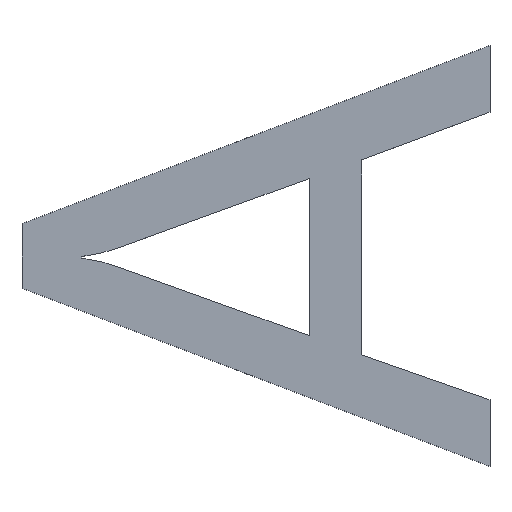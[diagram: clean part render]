
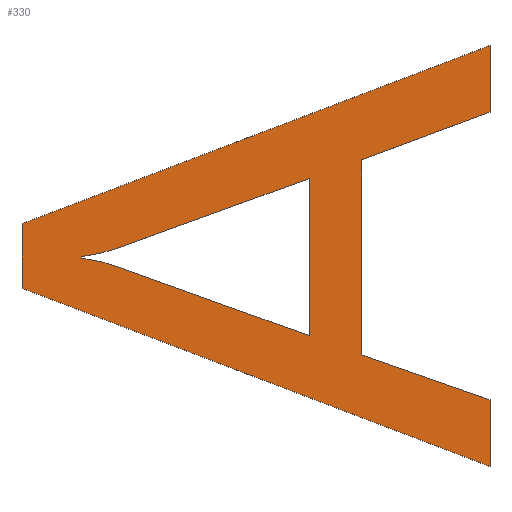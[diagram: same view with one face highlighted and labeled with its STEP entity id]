
A CAD part, top view. The second image highlights one B-rep face of the part: STEP entity #330.
In plain terms, the highlighted planar face has unit normal (0, 0, 1).
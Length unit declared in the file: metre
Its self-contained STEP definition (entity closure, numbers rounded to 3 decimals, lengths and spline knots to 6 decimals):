
#13=B_SPLINE_CURVE_WITH_KNOTS('',3,(#547,#548,#549,#550),.UNSPECIFIED.,
 .F.,.F.,(4,4),(3.,4.),.UNSPECIFIED.);
#15=B_SPLINE_CURVE_WITH_KNOTS('',3,(#572,#573,#574,#575),.UNSPECIFIED.,
 .F.,.F.,(4,4),(1.,2.),.UNSPECIFIED.);
#88=ORIENTED_EDGE('',*,*,#119,.F.);
#89=ORIENTED_EDGE('',*,*,#104,.F.);
#90=ORIENTED_EDGE('',*,*,#108,.F.);
#91=ORIENTED_EDGE('',*,*,#111,.F.);
#92=ORIENTED_EDGE('',*,*,#114,.F.);
#93=ORIENTED_EDGE('',*,*,#117,.F.);
#94=ORIENTED_EDGE('',*,*,#143,.T.);
#95=ORIENTED_EDGE('',*,*,#140,.T.);
#96=ORIENTED_EDGE('',*,*,#137,.T.);
#97=ORIENTED_EDGE('',*,*,#134,.T.);
#98=ORIENTED_EDGE('',*,*,#131,.T.);
#99=ORIENTED_EDGE('',*,*,#128,.T.);
#100=ORIENTED_EDGE('',*,*,#125,.T.);
#101=ORIENTED_EDGE('',*,*,#122,.T.);
#104=EDGE_CURVE('',#146,#147,#174,.T.);
#108=EDGE_CURVE('',#149,#146,#13,.T.);
#111=EDGE_CURVE('',#151,#149,#179,.T.);
#114=EDGE_CURVE('',#153,#151,#15,.T.);
#117=EDGE_CURVE('',#155,#153,#183,.T.);
#119=EDGE_CURVE('',#147,#155,#185,.T.);
#122=EDGE_CURVE('',#159,#158,#188,.T.);
#125=EDGE_CURVE('',#161,#159,#191,.T.);
#128=EDGE_CURVE('',#163,#161,#194,.T.);
#131=EDGE_CURVE('',#165,#163,#197,.T.);
#134=EDGE_CURVE('',#167,#165,#200,.T.);
#137=EDGE_CURVE('',#169,#167,#203,.T.);
#140=EDGE_CURVE('',#171,#169,#206,.T.);
#143=EDGE_CURVE('',#158,#171,#209,.T.);
#146=VERTEX_POINT('',#528);
#147=VERTEX_POINT('',#530);
#149=VERTEX_POINT('',#546);
#151=VERTEX_POINT('',#555);
#153=VERTEX_POINT('',#571);
#155=VERTEX_POINT('',#580);
#158=VERTEX_POINT('',#590);
#159=VERTEX_POINT('',#592);
#161=VERTEX_POINT('',#598);
#163=VERTEX_POINT('',#604);
#165=VERTEX_POINT('',#610);
#167=VERTEX_POINT('',#616);
#169=VERTEX_POINT('',#622);
#171=VERTEX_POINT('',#628);
#174=LINE('',#529,#212);
#179=LINE('',#556,#217);
#183=LINE('',#581,#221);
#185=LINE('',#584,#223);
#188=LINE('',#591,#226);
#191=LINE('',#597,#229);
#194=LINE('',#603,#232);
#197=LINE('',#609,#235);
#200=LINE('',#615,#238);
#203=LINE('',#621,#241);
#206=LINE('',#627,#244);
#209=LINE('',#632,#247);
#212=VECTOR('',#460,1.);
#217=VECTOR('',#467,1.);
#221=VECTOR('',#473,1.);
#223=VECTOR('',#477,1.);
#226=VECTOR('',#482,1.);
#229=VECTOR('',#487,1.);
#232=VECTOR('',#492,1.);
#235=VECTOR('',#497,1.);
#238=VECTOR('',#502,1.);
#241=VECTOR('',#507,1.);
#244=VECTOR('',#512,1.);
#247=VECTOR('',#517,1.);
#264=EDGE_LOOP('',(#88,#89,#90,#91,#92,#93));
#265=EDGE_LOOP('',(#94,#95,#96,#97,#98,#99,#100,#101));
#282=FACE_BOUND('',#264,.T.);
#283=FACE_BOUND('',#265,.T.);
#297=PLANE('',#453);
#330=ADVANCED_FACE('',(#282,#283),#297,.F.);
#453=AXIS2_PLACEMENT_3D('',#634,#520,#521);
#460=DIRECTION('',(0.941,-0.339,0.));
#467=DIRECTION('',(0.,-1.,0.));
#473=DIRECTION('',(-0.94,-0.342,0.));
#477=DIRECTION('',(0.,1.,0.));
#482=DIRECTION('',(0.,1.,0.));
#487=DIRECTION('',(0.937,0.349,0.));
#492=DIRECTION('',(0.,1.,0.));
#497=DIRECTION('',(-0.943,0.332,0.));
#502=DIRECTION('',(0.,1.,0.));
#507=DIRECTION('',(0.935,-0.356,0.));
#512=DIRECTION('',(0.,-1.,0.));
#517=DIRECTION('',(-0.935,-0.356,0.));
#520=DIRECTION('',(0.,0.,-1.));
#521=DIRECTION('',(1.,0.,0.));
#528=CARTESIAN_POINT('',(-0.121211,-0.022502,0.01125));
#529=CARTESIAN_POINT('',(-0.121211,-0.022502,0.01125));
#530=CARTESIAN_POINT('',(-0.12116,-0.022521,0.01125));
#546=CARTESIAN_POINT('',(-0.121219,-0.0225,0.01125));
#547=CARTESIAN_POINT('',(-0.121219,-0.0225,0.01125));
#548=CARTESIAN_POINT('',(-0.121216,-0.022501,0.01125));
#549=CARTESIAN_POINT('',(-0.121213,-0.022502,0.01125));
#550=CARTESIAN_POINT('',(-0.121211,-0.022502,0.01125));
#555=CARTESIAN_POINT('',(-0.121219,-0.0225,0.01125));
#556=CARTESIAN_POINT('',(-0.121219,-0.0225,0.01125));
#571=CARTESIAN_POINT('',(-0.121211,-0.022498,0.01125));
#572=CARTESIAN_POINT('',(-0.121211,-0.022498,0.01125));
#573=CARTESIAN_POINT('',(-0.121213,-0.022499,0.01125));
#574=CARTESIAN_POINT('',(-0.121215,-0.022499,0.01125));
#575=CARTESIAN_POINT('',(-0.121219,-0.0225,0.01125));
#580=CARTESIAN_POINT('',(-0.12116,-0.02248,0.01125));
#581=CARTESIAN_POINT('',(-0.12116,-0.02248,0.01125));
#584=CARTESIAN_POINT('',(-0.12116,-0.022521,0.01125));
#590=CARTESIAN_POINT('',(-0.121113,-0.022445,0.01125));
#591=CARTESIAN_POINT('',(-0.121113,-0.022445,0.01125));
#592=CARTESIAN_POINT('',(-0.121113,-0.022462,0.01125));
#597=CARTESIAN_POINT('',(-0.121113,-0.022462,0.01125));
#598=CARTESIAN_POINT('',(-0.121146,-0.022475,0.01125));
#603=CARTESIAN_POINT('',(-0.121146,-0.022475,0.01125));
#604=CARTESIAN_POINT('',(-0.121146,-0.022526,0.01125));
#609=CARTESIAN_POINT('',(-0.121146,-0.022526,0.01125));
#610=CARTESIAN_POINT('',(-0.121113,-0.022537,0.01125));
#615=CARTESIAN_POINT('',(-0.121113,-0.022537,0.01125));
#616=CARTESIAN_POINT('',(-0.121113,-0.022555,0.01125));
#621=CARTESIAN_POINT('',(-0.121113,-0.022555,0.01125));
#622=CARTESIAN_POINT('',(-0.121235,-0.022508,0.01125));
#627=CARTESIAN_POINT('',(-0.121235,-0.022508,0.01125));
#628=CARTESIAN_POINT('',(-0.121235,-0.022492,0.01125));
#632=CARTESIAN_POINT('',(-0.121235,-0.022492,0.01125));
#634=CARTESIAN_POINT('',(-0.120184,-0.025282,0.01125));
